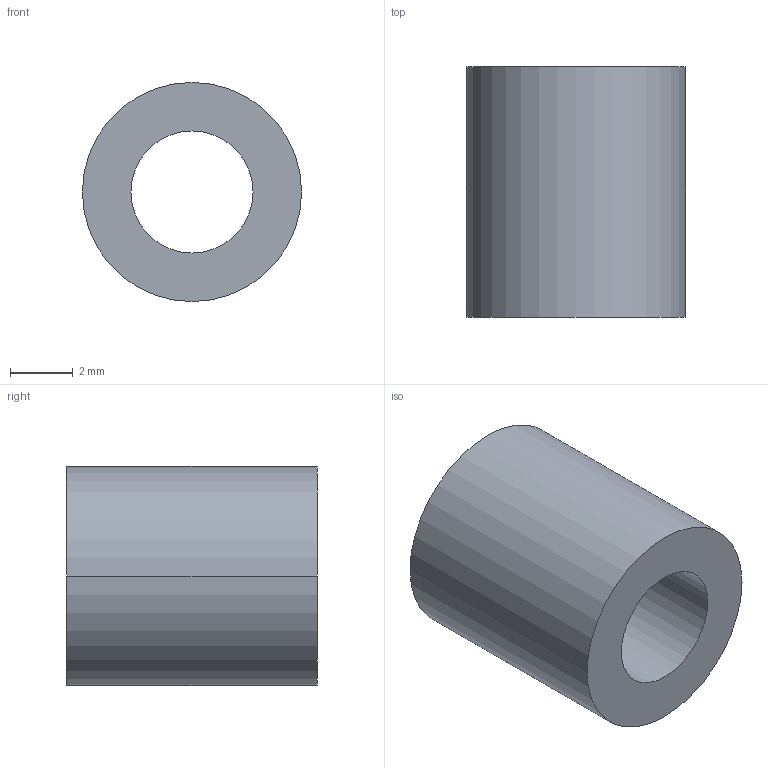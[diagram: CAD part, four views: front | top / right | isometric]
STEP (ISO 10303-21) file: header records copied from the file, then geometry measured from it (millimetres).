
FILE_DESCRIPTION (( 'STEP AP203' ), '1' );
FILE_NAME ('30800.WPP7B3.9.step', '2019-01-23T22:19:57', ( '' ), ( '' ), 'SwSTEP 2.0', 'SolidWorks 2017', '' );
FILE_SCHEMA (( 'CONFIG_CONTROL_DESIGN' ));
Length unit declared in the file: millimetre
Products named in the file (1): 30800.WPP7B3.9
Bounding box: 7 x 8 x 7 mm (x, y, z)
Volume: 209.4 mm3; surface area: 322.2 mm2
Topology: 1 solids, 1 shells, 8 faces, 16 edges, 10 vertices
Faces by surface type: cylinder 4, torus 2, plane 2
Entity records: 297 total; most frequent: DIRECTION 46, CARTESIAN_POINT 35, ORIENTED_EDGE 32, AXIS2_PLACEMENT_3D 21, EDGE_CURVE 16, CIRCLE 12, EDGE_LOOP 10, VERTEX_POINT 10
